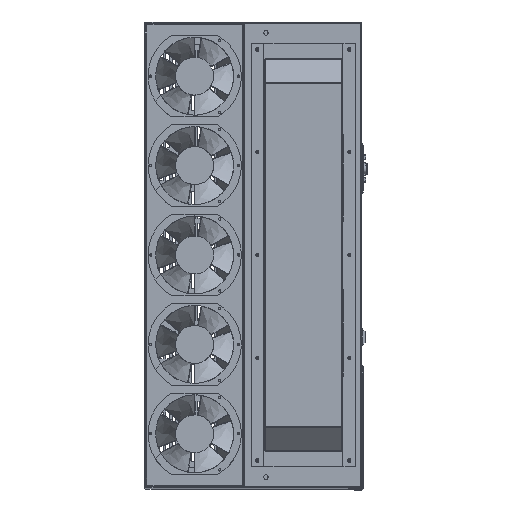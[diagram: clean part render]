
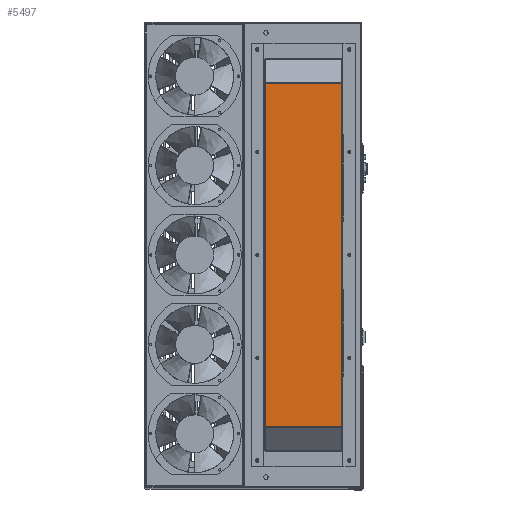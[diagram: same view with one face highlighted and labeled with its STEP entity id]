
A CAD part, top view. The second image highlights one B-rep face of the part: STEP entity #5497.
In plain terms, the highlighted planar face has unit normal (0, 0, 1).
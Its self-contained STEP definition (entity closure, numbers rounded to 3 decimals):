
#5497=ADVANCED_FACE('',(#43973),#43975,.T.);
#43973=FACE_BOUND('',#43974,.T.);
#43974=EDGE_LOOP('',(#78813,#78814,#78815,#78816));
#43975=PLANE('',#43976);
#43976=AXIS2_PLACEMENT_3D('',#43977,#43978,#43979);
#43977=CARTESIAN_POINT('',(0.,0.,1.7));
#43978=DIRECTION('',(0.,0.,1.));
#43979=DIRECTION('',(0.,1.,0.));
#78813=ORIENTED_EDGE('',*,*,#98082,.T.);
#78814=ORIENTED_EDGE('',*,*,#98932,.T.);
#78815=ORIENTED_EDGE('',*,*,#98505,.T.);
#78816=ORIENTED_EDGE('',*,*,#98933,.T.);
#98082=EDGE_CURVE('',#117617,#117615,#117618,.T.);
#98505=EDGE_CURVE('',#118042,#118040,#118043,.T.);
#98932=EDGE_CURVE('',#117615,#118042,#118474,.T.);
#98933=EDGE_CURVE('',#118040,#117617,#118475,.T.);
#117615=VERTEX_POINT('',#157862);
#117617=VERTEX_POINT('',#157867);
#117618=LINE('',#157868,#157869);
#118040=VERTEX_POINT('',#159135);
#118042=VERTEX_POINT('',#159140);
#118043=LINE('',#159141,#159142);
#118474=LINE('',#160431,#160432);
#118475=LINE('',#160434,#160435);
#157862=CARTESIAN_POINT('',(-70.3,-316.655,1.7));
#157867=CARTESIAN_POINT('',(-70.3,316.655,1.7));
#157868=CARTESIAN_POINT('',(-70.3,316.655,1.7));
#157869=VECTOR('',#157870,1.);
#157870=DIRECTION('',(0.,-1.,0.));
#159135=CARTESIAN_POINT('',(70.3,316.655,1.7));
#159140=CARTESIAN_POINT('',(70.3,-316.655,1.7));
#159141=CARTESIAN_POINT('',(70.3,-316.655,1.7));
#159142=VECTOR('',#159143,1.);
#159143=DIRECTION('',(0.,1.,0.));
#160431=CARTESIAN_POINT('',(-70.3,-316.655,1.7));
#160432=VECTOR('',#160433,1.);
#160433=DIRECTION('',(1.,0.,0.));
#160434=CARTESIAN_POINT('',(70.3,316.655,1.7));
#160435=VECTOR('',#160436,1.);
#160436=DIRECTION('',(-1.,0.,0.));
